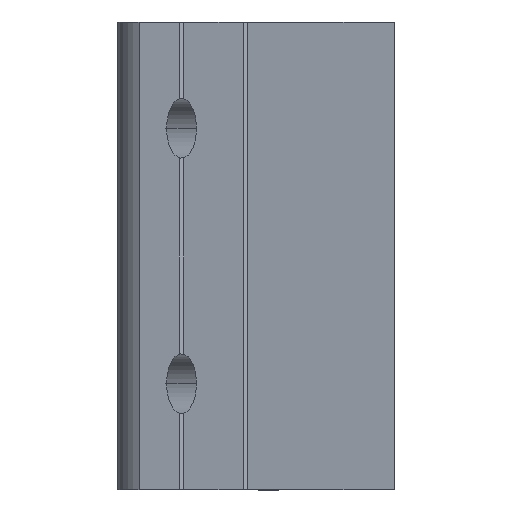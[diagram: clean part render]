
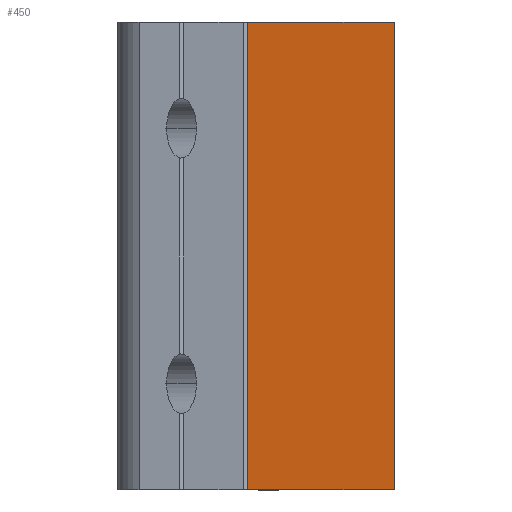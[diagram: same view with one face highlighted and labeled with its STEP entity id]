
A CAD part, left-side view. The second image highlights one B-rep face of the part: STEP entity #450.
In plain terms, the highlighted planar face has unit normal (-0.5, -0.866, 0).
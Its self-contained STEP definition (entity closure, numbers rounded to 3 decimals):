
#198 = ORIENTED_EDGE ( 'NONE', *, *, #758, .T. ) ;
#207 = LINE ( 'NONE', #717, #640 ) ;
#216 = DIRECTION ( 'NONE',  ( -0.866, 0.5, 0. ) ) ;
#268 = FACE_OUTER_BOUND ( 'NONE', #1771, .T. ) ;
#297 = CARTESIAN_POINT ( 'NONE',  ( 0., 0., -27.5 ) ) ;
#450 = ADVANCED_FACE ( 'NONE', ( #268 ), #1114, .T. ) ;
#454 = CARTESIAN_POINT ( 'NONE',  ( -29.878, 17.25, 27.5 ) ) ;
#624 = CARTESIAN_POINT ( 'NONE',  ( 0., 0., 27.5 ) ) ;
#640 = VECTOR ( 'NONE', #216, 1000. ) ;
#669 = LINE ( 'NONE', #297, #2015 ) ;
#672 = CARTESIAN_POINT ( 'NONE',  ( 0., 0., 0. ) ) ;
#717 = CARTESIAN_POINT ( 'NONE',  ( 0., 0., 27.5 ) ) ;
#746 = CARTESIAN_POINT ( 'NONE',  ( -29.878, 17.25, -27.5 ) ) ;
#758 = EDGE_CURVE ( 'NONE', #1363, #2103, #207, .T. ) ;
#797 = CARTESIAN_POINT ( 'NONE',  ( 0., 0., -27.5 ) ) ;
#924 = DIRECTION ( 'NONE',  ( 0.866, -0.5, 0. ) ) ;
#953 = CARTESIAN_POINT ( 'NONE',  ( 0., 0., 0. ) ) ;
#1052 = EDGE_CURVE ( 'NONE', #1363, #1516, #1535, .T. ) ;
#1114 = PLANE ( 'NONE',  #2149 ) ;
#1272 = VERTEX_POINT ( 'NONE', #746 ) ;
#1315 = DIRECTION ( 'NONE',  ( 0.866, -0.5, 0. ) ) ;
#1363 = VERTEX_POINT ( 'NONE', #624 ) ;
#1446 = DIRECTION ( 'NONE',  ( -0.5, -0.866, 0. ) ) ;
#1505 = CARTESIAN_POINT ( 'NONE',  ( -29.878, 17.25, 0. ) ) ;
#1516 = VERTEX_POINT ( 'NONE', #797 ) ;
#1535 = LINE ( 'NONE', #672, #1593 ) ;
#1593 = VECTOR ( 'NONE', #1903, 1000. ) ;
#1683 = LINE ( 'NONE', #1505, #2053 ) ;
#1771 = EDGE_LOOP ( 'NONE', ( #2137, #1926, #1996, #198 ) ) ;
#1791 = EDGE_CURVE ( 'NONE', #1272, #1516, #669, .T. ) ;
#1865 = EDGE_CURVE ( 'NONE', #2103, #1272, #1683, .T. ) ;
#1903 = DIRECTION ( 'NONE',  ( 0., 0., -1. ) ) ;
#1926 = ORIENTED_EDGE ( 'NONE', *, *, #1791, .T. ) ;
#1996 = ORIENTED_EDGE ( 'NONE', *, *, #1052, .F. ) ;
#2015 = VECTOR ( 'NONE', #1315, 1000. ) ;
#2018 = DIRECTION ( 'NONE',  ( 0., 0., -1. ) ) ;
#2053 = VECTOR ( 'NONE', #2018, 1000. ) ;
#2103 = VERTEX_POINT ( 'NONE', #454 ) ;
#2137 = ORIENTED_EDGE ( 'NONE', *, *, #1865, .T. ) ;
#2149 = AXIS2_PLACEMENT_3D ( 'NONE', #953, #1446, #924 ) ;
